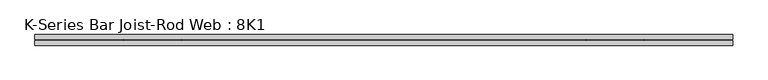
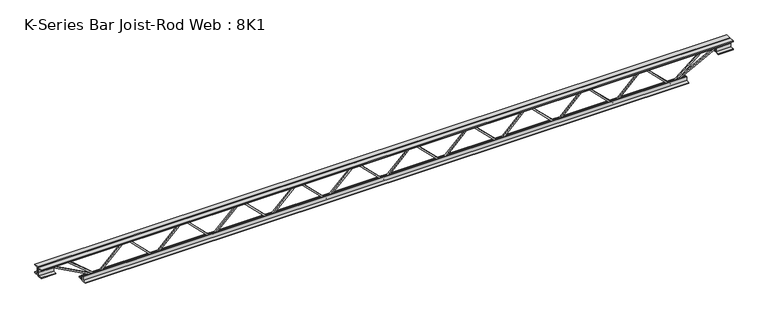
"""IFC4 building model written with IfcOpenShell, lengths in millimetres: beam geometry, K-Series Bar Joist-Rod Web : 8K1."""

from ifc_helpers import new_model, si_unit, frame, origin, place, context, project, spatial, polyline, outline, extrude, source, transform, mapped, element, save


def k_series_bar_joist_rod_web_8k1_6a32b11c(model_context):
    return source(origin(), model_context, "Body", "SweptSolid", [
        extrude(outline(polyline([(-90.4875, 1190.143393), (-100.0125, 1190.143393), (-100.0125, 1195.2801011), (90.4875, 1387.2873333), (90.4875, 1389.713917), (-100.0125, 1581.7211492), (-100.0125, 1586.8578573), (-90.4875, 1586.8578573), (-90.4875, 1585.6445655), (100.0125, 1393.6373333), (100.0125, 1383.363917), (-90.4875, 1191.3566849), (-90.4875, 1190.143393)])), frame((0.0, -4.7625, 0.0), z_axis=(0.0, 1.0, 0.0), x_axis=(0.0, 0.0, 1.0)), (0.0, 0.0, 1.0), 9.525),
        extrude(outline(polyline([(-90.4875, 793.4289287), (-100.0125, 793.4289287), (-100.0125, 798.5656368), (90.4875, 990.572869), (90.4875, 992.9994527), (-100.0125, 1185.0066849), (-100.0125, 1190.143393), (-90.4875, 1190.143393), (-90.4875, 1188.9301011), (100.0125, 996.922869), (100.0125, 986.6494527), (-90.4875, 794.6422205), (-90.4875, 793.4289287)])), frame((0.0, -4.7625, 0.0), z_axis=(0.0, 1.0, 0.0), x_axis=(0.0, 0.0, 1.0)), (0.0, 0.0, 1.0), 9.525),
        extrude(outline(polyline([(-90.4875, 396.7144643), (-100.0125, 396.7144643), (-100.0125, 401.8511725), (90.4875, 593.8584046), (90.4875, 596.2849884), (-100.0125, 788.2922205), (-100.0125, 793.4289287), (-90.4875, 793.4289287), (-90.4875, 792.2156368), (100.0125, 600.2084046), (100.0125, 589.9349884), (-90.4875, 397.9277562), (-90.4875, 396.7144643)])), frame((0.0, -4.7625, 0.0), z_axis=(0.0, 1.0, 0.0), x_axis=(0.0, 0.0, 1.0)), (0.0, 0.0, 1.0), 9.525),
        extrude(outline(polyline([(-90.4875, 0.0), (-100.0125, 0.0), (-100.0125, 5.1367081), (90.4875, 197.1439403), (90.4875, 199.570524), (-100.0125, 391.5777562), (-100.0125, 396.7144643), (-90.4875, 396.7144643), (-90.4875, 395.5011725), (100.0125, 203.4939403), (100.0125, 193.220524), (-90.4875, 1.2132919), (-90.4875, 0.0)])), frame((0.0, -4.7625, 0.0), z_axis=(0.0, 1.0, 0.0), x_axis=(0.0, 0.0, 1.0)), (0.0, 0.0, 1.0), 9.525),
        extrude(outline(polyline([(-90.4875, -396.7144643), (-100.0125, -396.7144643), (-100.0125, -391.5777562), (90.4875, -199.570524), (90.4875, -197.1439403), (-100.0125, -5.1367081), (-100.0125, 0.0), (-90.4875, 0.0), (-90.4875, -1.2132919), (100.0125, -193.220524), (100.0125, -203.4939403), (-90.4875, -395.5011725), (-90.4875, -396.7144643)])), frame((0.0, -4.7625, 0.0), z_axis=(0.0, 1.0, 0.0), x_axis=(0.0, 0.0, 1.0)), (0.0, 0.0, 1.0), 9.525),
        extrude(outline(polyline([(-90.4875, -793.4289287), (-100.0125, -793.4289287), (-100.0125, -788.2922205), (90.4875, -596.2849884), (90.4875, -593.8584046), (-100.0125, -401.8511725), (-100.0125, -396.7144643), (-90.4875, -396.7144643), (-90.4875, -397.9277562), (100.0125, -589.9349884), (100.0125, -600.2084046), (-90.4875, -792.2156368), (-90.4875, -793.4289287)])), frame((0.0, -4.7625, 0.0), z_axis=(0.0, 1.0, 0.0), x_axis=(0.0, 0.0, 1.0)), (0.0, 0.0, 1.0), 9.525),
        extrude(outline(polyline([(-90.4875, -1190.143393), (-100.0125, -1190.143393), (-100.0125, -1185.0066849), (90.4875, -992.9994527), (90.4875, -990.572869), (-100.0125, -798.5656368), (-100.0125, -793.4289287), (-90.4875, -793.4289287), (-90.4875, -794.6422205), (100.0125, -986.6494527), (100.0125, -996.922869), (-90.4875, -1188.9301011), (-90.4875, -1190.143393)])), frame((0.0, -4.7625, 0.0), z_axis=(0.0, 1.0, 0.0), x_axis=(0.0, 0.0, 1.0)), (0.0, 0.0, 1.0), 9.525),
        extrude(outline(polyline([(-90.4875, -1586.8578573), (-100.0125, -1586.8578573), (-100.0125, -1581.7211492), (90.4875, -1389.713917), (90.4875, -1387.2873333), (-100.0125, -1195.2801011), (-100.0125, -1190.143393), (-90.4875, -1190.143393), (-90.4875, -1191.3566849), (100.0125, -1383.363917), (100.0125, -1393.6373333), (-90.4875, -1585.6445655), (-90.4875, -1586.8578573)])), frame((0.0, -4.7625, 0.0), z_axis=(0.0, 1.0, 0.0), x_axis=(0.0, 0.0, 1.0)), (0.0, 0.0, 1.0), 9.525),
        extrude(outline(polyline([(-90.4875, 1586.8578573), (-100.0125, 1586.8578573), (-100.0125, 1591.9945655), (90.4875, 1784.0017976), (90.4875, 1786.4283814), (-100.0125, 1978.4356135), (-100.0125, 1983.5723217), (-90.4875, 1983.5723217), (-90.4875, 1982.3590298), (100.0125, 1790.3517976), (100.0125, 1780.0783814), (-90.4875, 1588.0711492), (-90.4875, 1586.8578573)])), frame((0.0, -4.7625, 0.0), z_axis=(0.0, 1.0, 0.0), x_axis=(0.0, 0.0, 1.0)), (0.0, 0.0, 1.0), 9.525),
        extrude(outline(polyline([(-90.4875, -1983.5723217), (-100.0125, -1983.5723217), (-100.0125, -1978.4356135), (90.4875, -1786.4283814), (90.4875, -1784.0017976), (-100.0125, -1591.9945655), (-100.0125, -1586.8578573), (-90.4875, -1586.8578573), (-90.4875, -1588.0711492), (100.0125, -1780.0783814), (100.0125, -1790.3517976), (-90.4875, -1982.3590298), (-90.4875, -1983.5723217)])), frame((0.0, -4.7625, 0.0), z_axis=(0.0, 1.0, 0.0), x_axis=(0.0, 0.0, 1.0)), (0.0, 0.0, 1.0), 9.525),
        extrude(outline(polyline([(4.7625, 101.6), (36.5125, 101.6), (36.5125, 95.25), (11.1125, 95.25), (11.1125, 69.85), (4.7625, 69.85), (4.7625, 101.6)])), frame((-2389.9723217, 0.0, 0.0), z_axis=(1.0, 0.0, 0.0), x_axis=(0.0, 1.0, 0.0)), (0.0, 0.0, 1.0), 4779.9446433),
        extrude(outline(polyline([(-4.7625, 101.6), (-4.7625, 69.85), (-11.1125, 69.85), (-11.1125, 95.25), (-36.5125, 95.25), (-36.5125, 101.6), (-4.7625, 101.6)])), frame((-2389.9723217, 0.0, 0.0), z_axis=(1.0, 0.0, 0.0), x_axis=(0.0, 1.0, 0.0)), (0.0, 0.0, 1.0), 4779.9446433),
        extrude(outline(polyline([(-4.7625, 38.1), (-36.5125, 38.1), (-36.5125, 44.45), (-11.1125, 44.45), (-11.1125, 69.85), (-4.7625, 69.85), (-4.7625, 38.1)])), frame((-2389.9723217, 0.0, 0.0), z_axis=(1.0, 0.0, 0.0), x_axis=(0.0, 1.0, 0.0)), (0.0, 0.0, 1.0), 101.6),
        extrude(outline(polyline([(36.5125, 38.1), (4.7625, 38.1), (4.7625, 69.85), (11.1125, 69.85), (11.1125, 44.45), (36.5125, 44.45), (36.5125, 38.1)])), frame((-2389.9723217, 0.0, 0.0), z_axis=(1.0, 0.0, 0.0), x_axis=(0.0, 1.0, 0.0)), (0.0, 0.0, 1.0), 101.6),
        extrude(outline(polyline([(4.7625, 38.1), (4.7625, 69.85), (11.1125, 69.85), (11.1125, 44.45), (36.5125, 44.45), (36.5125, 38.1), (4.7625, 38.1)])), frame((2288.3723217, 0.0, 0.0), z_axis=(1.0, 0.0, 0.0), x_axis=(0.0, 1.0, 0.0)), (0.0, 0.0, 1.0), 101.6),
        extrude(outline(polyline([(-4.7625, 38.1), (-36.5125, 38.1), (-36.5125, 44.45), (-11.1125, 44.45), (-11.1125, 69.85), (-4.7625, 69.85), (-4.7625, 38.1)])), frame((2288.3723217, 0.0, 0.0), z_axis=(1.0, 0.0, 0.0), x_axis=(0.0, 1.0, 0.0)), (0.0, 0.0, 1.0), 101.6),
        extrude(outline(polyline([(4.7625, -101.6), (4.7625, -69.85), (11.1125, -69.85), (11.1125, -95.25), (36.5125, -95.25), (36.5125, -101.6), (4.7625, -101.6)])), frame((-2085.1723217, 0.0, 0.0), z_axis=(1.0, 0.0, 0.0), x_axis=(0.0, 1.0, 0.0)), (0.0, 0.0, 1.0), 4170.3446433),
        extrude(outline(polyline([(-4.7625, -101.6), (-36.5125, -101.6), (-36.5125, -95.25), (-11.1125, -95.25), (-11.1125, -69.85), (-4.7625, -69.85), (-4.7625, -101.6)])), frame((-2085.1723217, 0.0, 0.0), z_axis=(1.0, 0.0, 0.0), x_axis=(0.0, 1.0, 0.0)), (0.0, 0.0, 1.0), 4170.3446433),
        extrude(outline(polyline([(0.0, -9.525), (0.0, 0.0), (346.6425392, 0.0), (346.6425392, -9.525), (0.0, -9.525)])), frame((-2290.6406201, 4.7625, 65.662372), z_axis=(0.4762831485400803, 0.0, 0.8792919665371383), x_axis=(0.8792919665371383, 0.0, -0.4762831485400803)), (0.0, 0.0, 1.0), 9.525),
        extrude(outline(polyline([(0.0, -9.525), (0.0, 0.0), (258.0767358, 0.0), (258.0767358, -9.525), (0.0, -9.525)])), frame((-2184.9762785, 4.7625, 66.1895526), z_axis=(0.6397322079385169, 0.0, 0.7685978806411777), x_axis=(0.7685978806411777, 0.0, -0.6397322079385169)), (0.0, 0.0, 1.0), 9.525),
        extrude(outline(polyline([(0.0, -9.525), (0.0, 0.0), (346.6425392, 0.0), (346.6425392, -9.525), (0.0, -9.525)])), frame((2290.6406201, -4.7625, 65.662372), z_axis=(-0.4762831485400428, 0.0, 0.8792919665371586), x_axis=(-0.8792919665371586, 0.0, -0.4762831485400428)), (0.0, 0.0, 1.0), 9.525),
        extrude(outline(polyline([(0.0, -9.525), (0.0, 0.0), (258.0767358, 0.0), (258.0767358, -9.525), (0.0, -9.525)])), frame((2184.9762785, -4.7625, 66.1895526), z_axis=(-0.6397322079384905, 0.0, 0.7685978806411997), x_axis=(-0.7685978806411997, 0.0, -0.6397322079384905)), (0.0, 0.0, 1.0), 9.525),
    ])


if __name__ == "__main__":
    model = new_model("IFC4")
    model_context = context("Model", 3, world=origin())
    ifc_project = project(units=[si_unit("LENGTHUNIT", "METRE", prefix="MILLI")], contexts=[model_context])
    site = spatial("IfcSite", under=ifc_project)
    building = spatial("IfcBuilding", under=site)
    placement = place(None, origin())
    k_series_bar_joist_rod_web_8k1_shape = k_series_bar_joist_rod_web_8k1_6a32b11c(model_context)
    element("IfcBeam", 1, ObjectType="K-Series Bar Joist-Rod Web : 8K1", at=placement, inside=building, context=model_context, shape_type="MappedRepresentation", body=[
        mapped(k_series_bar_joist_rod_web_8k1_shape, transform((0.0, 0.0, 0.0), x_axis=(1.0, 0.0, 0.0), y_axis=(0.0, 1.0, 0.0), z_axis=(0.0, 0.0, 1.0))),
    ])
    save(model, "model.ifc")
